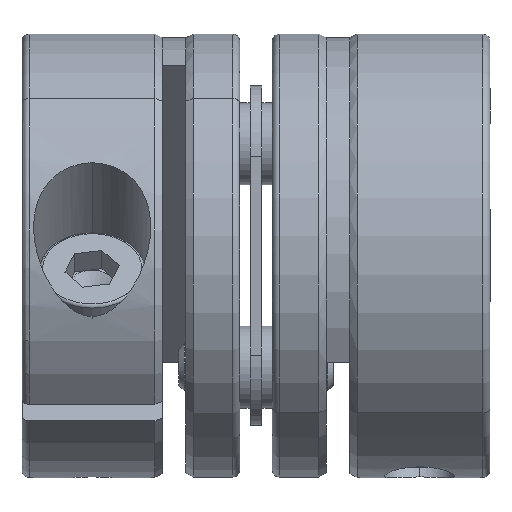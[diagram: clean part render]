
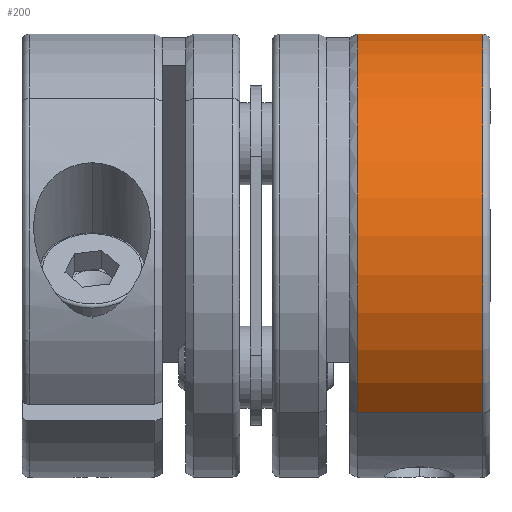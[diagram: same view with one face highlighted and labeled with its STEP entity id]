
A CAD part, left-side view. The second image highlights one B-rep face of the part: STEP entity #200.
In plain terms, the highlighted cylindrical face has radius 9.5 mm (diameter 19 mm), a partial arc.
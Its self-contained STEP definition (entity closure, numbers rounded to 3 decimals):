
#155 = ORIENTED_EDGE ( 'NONE', *, *, #351, .T. ) ;
#200 = ADVANCED_FACE ( 'NONE', ( #2806 ), #511, .T. ) ;
#204 = DIRECTION ( 'NONE',  ( 0., -1., 0. ) ) ;
#262 = VERTEX_POINT ( 'NONE', #989 ) ;
#351 = EDGE_CURVE ( 'NONE', #5590, #3831, #1071, .T. ) ;
#476 = AXIS2_PLACEMENT_3D ( 'NONE', #4234, #204, #654 ) ;
#511 = CYLINDRICAL_SURFACE ( 'NONE', #4509, 9.5 ) ;
#654 = DIRECTION ( 'NONE',  ( 0., 0., -1. ) ) ;
#875 = CARTESIAN_POINT ( 'NONE',  ( 0., 1.033, -9.5 ) ) ;
#958 = LINE ( 'NONE', #2770, #4372 ) ;
#989 = CARTESIAN_POINT ( 'NONE',  ( 0., 1.033, 9.5 ) ) ;
#1071 = LINE ( 'NONE', #4599, #1382 ) ;
#1296 = CARTESIAN_POINT ( 'NONE',  ( 0., -4.35, 0. ) ) ;
#1382 = VECTOR ( 'NONE', #3827, 1000. ) ;
#1495 = EDGE_CURVE ( 'NONE', #262, #5590, #5500, .T. ) ;
#1695 = ORIENTED_EDGE ( 'NONE', *, *, #2372, .F. ) ;
#2212 = EDGE_CURVE ( 'NONE', #3831, #2951, #4645, .T. ) ;
#2372 = EDGE_CURVE ( 'NONE', #262, #2951, #958, .T. ) ;
#2681 = AXIS2_PLACEMENT_3D ( 'NONE', #1296, #3101, #4900 ) ;
#2770 = CARTESIAN_POINT ( 'NONE',  ( 0., 4.65, 9.5 ) ) ;
#2806 = FACE_OUTER_BOUND ( 'NONE', #4730, .T. ) ;
#2951 = VERTEX_POINT ( 'NONE', #4942 ) ;
#3101 = DIRECTION ( 'NONE',  ( 0., 1., 0. ) ) ;
#3193 = DIRECTION ( 'NONE',  ( 0., 0., -1. ) ) ;
#3688 = DIRECTION ( 'NONE',  ( 0., -1., 0. ) ) ;
#3827 = DIRECTION ( 'NONE',  ( 0., -1., 0. ) ) ;
#3831 = VERTEX_POINT ( 'NONE', #4320 ) ;
#3961 = ORIENTED_EDGE ( 'NONE', *, *, #1495, .T. ) ;
#4234 = CARTESIAN_POINT ( 'NONE',  ( 0., 1.033, 0. ) ) ;
#4320 = CARTESIAN_POINT ( 'NONE',  ( 0., -4.35, -9.5 ) ) ;
#4372 = VECTOR ( 'NONE', #4564, 1000. ) ;
#4509 = AXIS2_PLACEMENT_3D ( 'NONE', #5412, #3688, #3193 ) ;
#4564 = DIRECTION ( 'NONE',  ( 0., -1., 0. ) ) ;
#4599 = CARTESIAN_POINT ( 'NONE',  ( 0., 4.65, -9.5 ) ) ;
#4645 = CIRCLE ( 'NONE', #2681, 9.5 ) ;
#4730 = EDGE_LOOP ( 'NONE', ( #1695, #3961, #155, #4921 ) ) ;
#4900 = DIRECTION ( 'NONE',  ( 0., 0., 1. ) ) ;
#4921 = ORIENTED_EDGE ( 'NONE', *, *, #2212, .T. ) ;
#4942 = CARTESIAN_POINT ( 'NONE',  ( 0., -4.35, 9.5 ) ) ;
#5412 = CARTESIAN_POINT ( 'NONE',  ( 0., 4.65, 0. ) ) ;
#5500 = CIRCLE ( 'NONE', #476, 9.5 ) ;
#5590 = VERTEX_POINT ( 'NONE', #875 ) ;
